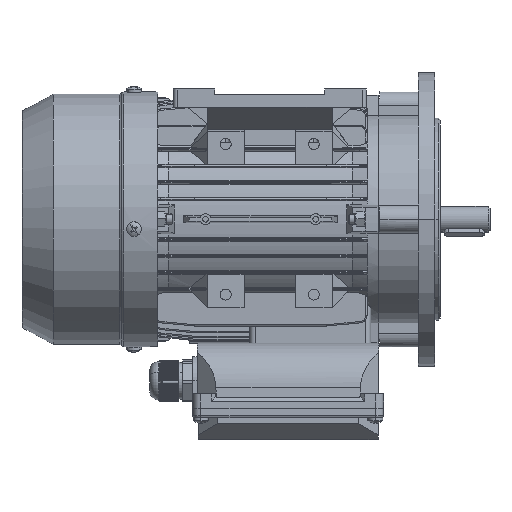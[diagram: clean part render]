
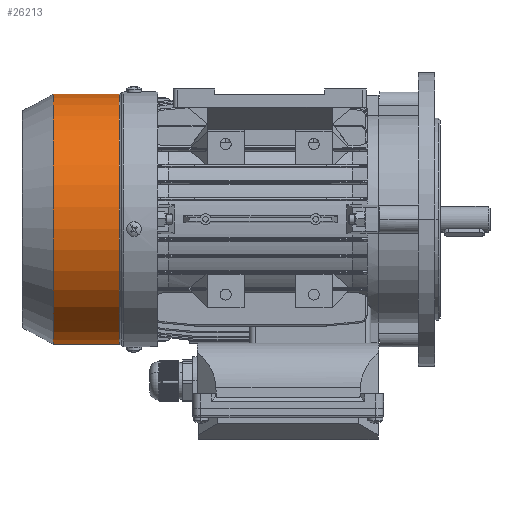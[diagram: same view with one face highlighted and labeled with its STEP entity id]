
A CAD part, left-side view. The second image highlights one B-rep face of the part: STEP entity #26213.
In plain terms, the highlighted cylindrical face has radius 68.3 mm (diameter 136.6 mm), a partial arc.
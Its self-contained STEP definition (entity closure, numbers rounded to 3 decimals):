
#1079 = VERTEX_POINT ( 'NONE', #80379 ) ;
#2880 = EDGE_CURVE ( 'NONE', #78126, #1079, #9553, .T. ) ;
#6973 = EDGE_CURVE ( 'NONE', #99490, #7175, #85346, .T. ) ;
#7175 = VERTEX_POINT ( 'NONE', #117420 ) ;
#7196 = DIRECTION ( 'NONE',  ( 0., -1., 0. ) ) ;
#7737 = DIRECTION ( 'NONE',  ( 0., -1., 0. ) ) ;
#7800 = CARTESIAN_POINT ( 'NONE',  ( 11.669, 70.035, 0. ) ) ;
#9553 = LINE ( 'NONE', #105816, #81936 ) ;
#10362 = DIRECTION ( 'NONE',  ( 0., -1., 0. ) ) ;
#13465 = ORIENTED_EDGE ( 'NONE', *, *, #65479, .T. ) ;
#19642 = DIRECTION ( 'NONE',  ( -0.075, 0., 0.997 ) ) ;
#19694 = CARTESIAN_POINT ( 'NONE',  ( 6.514, 106.044, 68.105 ) ) ;
#24117 = VECTOR ( 'NONE', #29053, 1000. ) ;
#26213 = ADVANCED_FACE ( 'NONE', ( #119499 ), #43441, .T. ) ;
#29053 = DIRECTION ( 'NONE',  ( 0., -1., 0. ) ) ;
#29348 = EDGE_LOOP ( 'NONE', ( #13465, #57853, #51367, #80880 ) ) ;
#29656 = CARTESIAN_POINT ( 'NONE',  ( 6.514, 49.044, 68.105 ) ) ;
#35241 = AXIS2_PLACEMENT_3D ( 'NONE', #7800, #7196, #54761 ) ;
#43441 = CYLINDRICAL_SURFACE ( 'NONE', #120066, 68.3 ) ;
#51367 = ORIENTED_EDGE ( 'NONE', *, *, #65932, .F. ) ;
#54761 = DIRECTION ( 'NONE',  ( -0.075, 0., 0.997 ) ) ;
#55843 = CARTESIAN_POINT ( 'NONE',  ( 16.824, 106.044, -68.105 ) ) ;
#57853 = ORIENTED_EDGE ( 'NONE', *, *, #2880, .T. ) ;
#62627 = DIRECTION ( 'NONE',  ( -0.075, 0., 0.997 ) ) ;
#65479 = EDGE_CURVE ( 'NONE', #99490, #78126, #122011, .T. ) ;
#65932 = EDGE_CURVE ( 'NONE', #7175, #1079, #114254, .T. ) ;
#78126 = VERTEX_POINT ( 'NONE', #55843 ) ;
#80379 = CARTESIAN_POINT ( 'NONE',  ( 16.824, 70.035, -68.105 ) ) ;
#80880 = ORIENTED_EDGE ( 'NONE', *, *, #6973, .F. ) ;
#81171 = DIRECTION ( 'NONE',  ( 0., -1., 0. ) ) ;
#81936 = VECTOR ( 'NONE', #7737, 1000. ) ;
#85346 = LINE ( 'NONE', #29656, #24117 ) ;
#99490 = VERTEX_POINT ( 'NONE', #19694 ) ;
#105816 = CARTESIAN_POINT ( 'NONE',  ( 16.824, 49.044, -68.105 ) ) ;
#109614 = CARTESIAN_POINT ( 'NONE',  ( 11.669, 49.044, 0. ) ) ;
#114254 = CIRCLE ( 'NONE', #35241, 68.3 ) ;
#117420 = CARTESIAN_POINT ( 'NONE',  ( 6.514, 70.035, 68.105 ) ) ;
#119247 = CARTESIAN_POINT ( 'NONE',  ( 11.669, 106.044, 0. ) ) ;
#119499 = FACE_OUTER_BOUND ( 'NONE', #29348, .T. ) ;
#120066 = AXIS2_PLACEMENT_3D ( 'NONE', #109614, #81171, #62627 ) ;
#122011 = CIRCLE ( 'NONE', #122100, 68.3 ) ;
#122100 = AXIS2_PLACEMENT_3D ( 'NONE', #119247, #10362, #19642 ) ;
